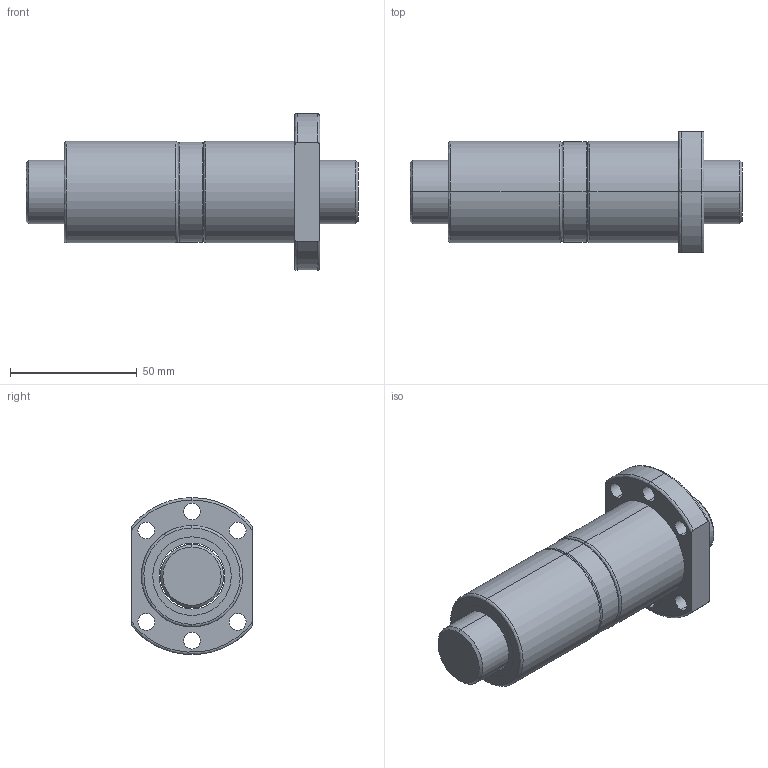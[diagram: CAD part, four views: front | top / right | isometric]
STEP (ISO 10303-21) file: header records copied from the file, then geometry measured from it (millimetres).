
FILE_DESCRIPTION (( 'STEP AP203' ), '1' );
FILE_NAME ('DFU02505.STEP', '2013-01-21T07:25:00', ( 'Halezer' ), ( '' ), 'SwSTEP 2.0', 'SolidWorks 2010', '' );
FILE_SCHEMA (( 'CONFIG_CONTROL_DESIGN' ));
Length unit declared in the file: millimetre
Products named in the file (1): DFU02505
Bounding box: 131 x 48 x 61.9 mm (x, y, z)
Volume: 148894.8 mm3; surface area: 43546.5 mm2
Topology: 6 solids, 6 shells, 78 faces, 173 edges, 110 vertices
Faces by surface type: cylinder 41, plane 17, bspline 16, cone 4
Entity records: 2636 total; most frequent: CARTESIAN_POINT 825, DIRECTION 373, ORIENTED_EDGE 346, EDGE_CURVE 173, AXIS2_PLACEMENT_3D 161, VERTEX_POINT 110, EDGE_LOOP 103, CIRCLE 98
